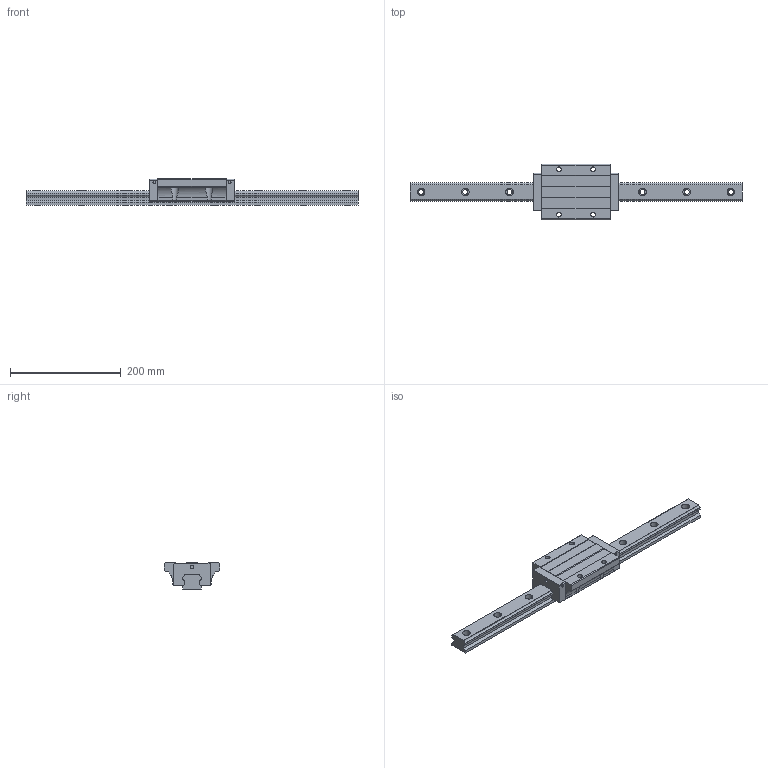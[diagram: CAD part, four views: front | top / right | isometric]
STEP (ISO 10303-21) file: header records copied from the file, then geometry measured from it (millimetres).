
FILE_DESCRIPTION (( 'STEP AP203' ), '1' );
FILE_NAME ('TRH35FE-XN.STEP', '2024-05-09T07:55:38', ( '' ), ( '' ), 'SwSTEP 2.0', 'SolidWorks 2022', '' );
FILE_SCHEMA (( 'CONFIG_CONTROL_DESIGN' ));
Length unit declared in the file: millimetre
Products named in the file (1): TRH35FE-XN
Bounding box: 600 x 100 x 48 mm (x, y, z)
Volume: 834775.9 mm3; surface area: 136352 mm2
Topology: 2 solids, 2 shells, 212 faces, 580 edges, 386 vertices
Faces by surface type: cylinder 112, plane 100
Entity records: 7521 total; most frequent: CARTESIAN_POINT 1873, DIRECTION 1174, ORIENTED_EDGE 1160, EDGE_CURVE 580, AXIS2_PLACEMENT_3D 409, VERTEX_POINT 386, VECTOR 356, LINE 356
